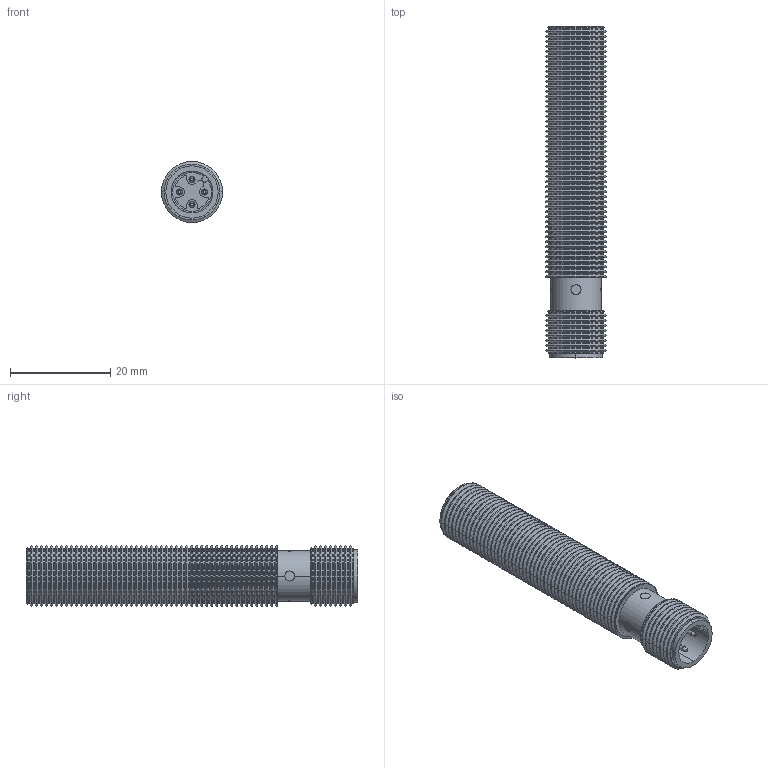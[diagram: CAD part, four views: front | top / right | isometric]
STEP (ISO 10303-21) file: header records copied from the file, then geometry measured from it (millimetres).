
FILE_DESCRIPTION(('FreeCAD Model'),'2;1');
FILE_NAME('Open CASCADE Shape Model','2024-10-01T09:24:08',( 'Thomas Reinhold'),('Eickmann Elektronik GmbH&.Co'), 'Open CASCADE STEP processor 7.6','FreeCAD','Unknown');
FILE_SCHEMA(('AUTOMOTIVE_DESIGN { 1 0 10303 214 1 1 1 1 }'));
Length unit declared in the file: millimetre
Products named in the file (1): 1001
Bounding box: 12.2 x 66.33 x 12.2 mm (x, y, z)
Surface area: 4317.6 mm2 (no closed solid volume)
Topology: 0 solids, 1 shells, 596 faces, 1235 edges, 652 vertices
Faces by surface type: cylinder 301, cone 246, plane 29, torus 19, bspline 1
Entity records: 16602 total; most frequent: CARTESIAN_POINT 3778, DIRECTION 3019, ORIENTED_EDGE 2464, EDGE_CURVE 1235, AXIS2_PLACEMENT_3D 1224, VERTEX_POINT 652, CIRCLE 628, FACE_BOUND 609
